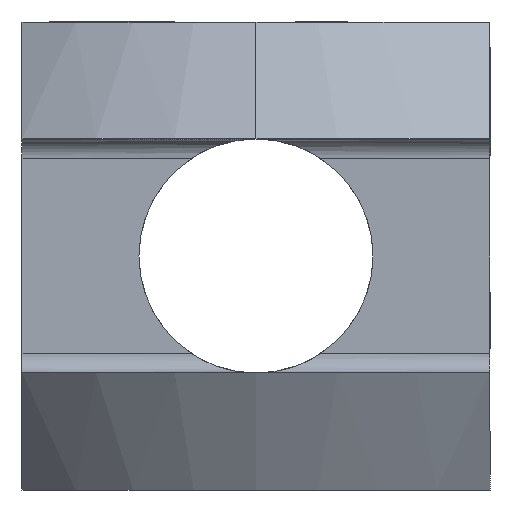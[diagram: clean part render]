
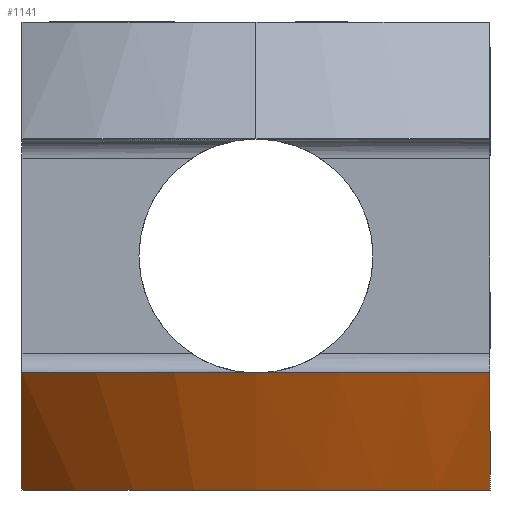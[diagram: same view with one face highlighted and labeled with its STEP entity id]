
A CAD part, left-side view. The second image highlights one B-rep face of the part: STEP entity #1141.
In plain terms, the highlighted conical face has half-angle 30 degrees and reference radius 24 mm.
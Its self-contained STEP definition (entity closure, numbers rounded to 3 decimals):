
#43 = EDGE_CURVE ( 'NONE', #1299, #44, #277, .T. ) ;
#44 = VERTEX_POINT ( 'NONE', #276 ) ;
#45 = VERTEX_POINT ( 'NONE', #278 ) ;
#272 = CARTESIAN_POINT ( 'NONE',  ( -58.785, 12., -6. ) ) ;
#273 = CARTESIAN_POINT ( 'NONE',  ( -57.439, 12., -8.018 ) ) ;
#274 = CARTESIAN_POINT ( 'NONE',  ( -56.072, 12., -10.022 ) ) ;
#275 = CARTESIAN_POINT ( 'NONE',  ( -54.665, 12., -12. ) ) ;
#276 = CARTESIAN_POINT ( 'NONE',  ( -58.785, 12., -6. ) ) ;
#277 = B_SPLINE_CURVE_WITH_KNOTS ( 'NONE', 3,
 ( #275, #274, #273, #272 ),
 .UNSPECIFIED., .F., .F.,
 ( 4, 4 ),
 ( 0.043, 0.05 ),
 .UNSPECIFIED. ) ;
#278 = CARTESIAN_POINT ( 'NONE',  ( -58.785, -12., -6. ) ) ;
#360 = EDGE_CURVE ( 'NONE', #44, #45, #602, .T. ) ;
#598 = DIRECTION ( 'NONE',  ( 1., 0., 0. ) ) ;
#599 = DIRECTION ( 'NONE',  ( 0., 0., 1. ) ) ;
#600 = CARTESIAN_POINT ( 'NONE',  ( -38., 0., -6. ) ) ;
#601 = AXIS2_PLACEMENT_3D ( 'NONE', #600, #599, #598 ) ;
#602 = CIRCLE ( 'NONE', #601, 24. ) ;
#655 = DIRECTION ( 'NONE',  ( 1., 0., 0. ) ) ;
#656 = DIRECTION ( 'NONE',  ( 0., 0., 1. ) ) ;
#657 = AXIS2_PLACEMENT_3D ( 'NONE', #658, #656, #655 ) ;
#658 = CARTESIAN_POINT ( 'NONE',  ( -38., 0., -6. ) ) ;
#659 = CONICAL_SURFACE ( 'NONE', #657, 24., 0.524 ) ;
#660 = FACE_OUTER_BOUND ( 'NONE', #1134, .T. ) ;
#679 = CARTESIAN_POINT ( 'NONE',  ( -54.665, -12., -12. ) ) ;
#680 = CARTESIAN_POINT ( 'NONE',  ( -56.072, -12., -10.022 ) ) ;
#681 = CARTESIAN_POINT ( 'NONE',  ( -57.439, -12., -8.018 ) ) ;
#682 = CARTESIAN_POINT ( 'NONE',  ( -58.785, -12., -6. ) ) ;
#684 = B_SPLINE_CURVE_WITH_KNOTS ( 'NONE', 3,
 ( #682, #681, #680, #679 ),
 .UNSPECIFIED., .F., .F.,
 ( 4, 4 ),
 ( 0.018, 0.025 ),
 .UNSPECIFIED. ) ;
#710 = CARTESIAN_POINT ( 'NONE',  ( -54.665, -12., -12. ) ) ;
#978 = DIRECTION ( 'NONE',  ( 1., 0., 0. ) ) ;
#979 = DIRECTION ( 'NONE',  ( 0., 0., 1. ) ) ;
#990 = AXIS2_PLACEMENT_3D ( 'NONE', #993, #979, #978 ) ;
#991 = CIRCLE ( 'NONE', #990, 20.536 ) ;
#992 = CARTESIAN_POINT ( 'NONE',  ( -54.665, 12., -12. ) ) ;
#993 = CARTESIAN_POINT ( 'NONE',  ( -38., 0., -12. ) ) ;
#1115 = ORIENTED_EDGE ( 'NONE', *, *, #1158, .F. ) ;
#1132 = ORIENTED_EDGE ( 'NONE', *, *, #1298, .T. ) ;
#1133 = ORIENTED_EDGE ( 'NONE', *, *, #43, .F. ) ;
#1134 = EDGE_LOOP ( 'NONE', ( #1135, #1133, #1132, #1115 ) ) ;
#1135 = ORIENTED_EDGE ( 'NONE', *, *, #360, .F. ) ;
#1141 = ADVANCED_FACE ( 'NONE', ( #660 ), #659, .T. ) ;
#1158 = EDGE_CURVE ( 'NONE', #45, #1173, #684, .T. ) ;
#1173 = VERTEX_POINT ( 'NONE', #710 ) ;
#1298 = EDGE_CURVE ( 'NONE', #1299, #1173, #991, .T. ) ;
#1299 = VERTEX_POINT ( 'NONE', #992 ) ;
